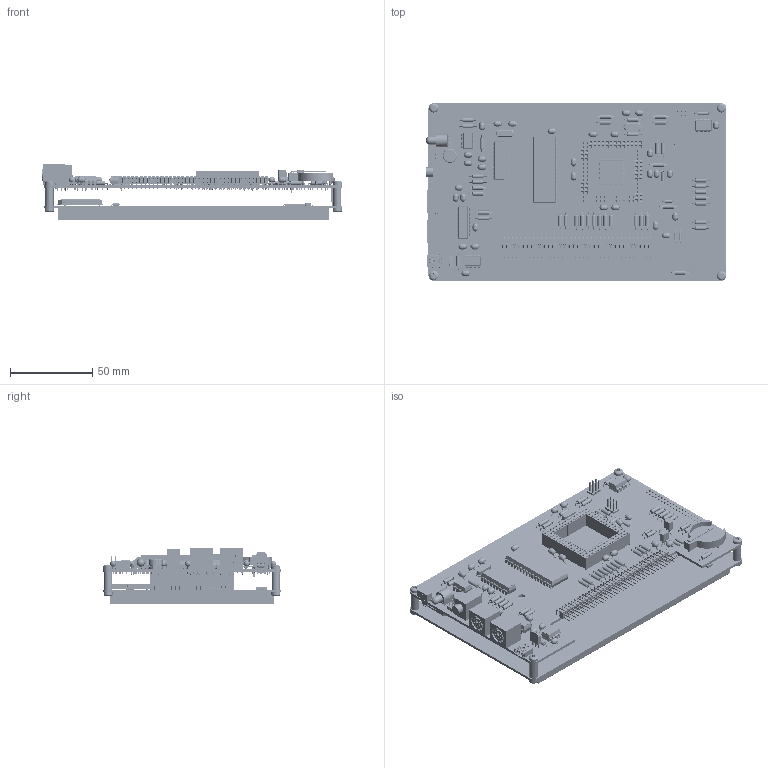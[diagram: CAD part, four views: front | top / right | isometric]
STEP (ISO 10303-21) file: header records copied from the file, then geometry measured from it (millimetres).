
FILE_DESCRIPTION(('Open CASCADE Model'),'2;1');
FILE_NAME('Open CASCADE Shape Model','2021-05-20T10:48:35',('Author'),( 'Open CASCADE'),'Open CASCADE STEP processor 6.8','Open CASCADE 6.8' ,'Unknown');
FILE_SCHEMA(('AUTOMOTIVE_DESIGN { 1 0 10303 214 1 1 1 1 }'));
Length unit declared in the file: millimetre
Products named in the file (148): PCB; Board; R41; RES1016-660X250; R40; R39; R38; R36; LED1; LED_DIALIGHT_550-3509F; U1; DIP8-300; R1; C1; CAPRR508-350X500X500; C21; D1; DO-35; Product; R16; J1; 70474310; Y3; XTAL_CITIZEN_HC-49-U-S; Y2; User_Library-DT-26-1; Y1; U9; U7; U3; User_Library-DIP-32P-M01; U6; DIP18-300; U5; TO-92AA-P254; U4; U2; QFP50P1600X1600X170-100N; SW1; 701982960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
Assembly tree (242 placements, depth 4):
  PCB
    Board
    R41
      RES1016-660X250
    R40
      RES1016-660X250
    R39
      RES1016-660X250
    R38
      RES1016-660X250
    R36
      RES1016-660X250
    LED1
      LED_DIALIGHT_550-3509F
    U1
      DIP8-300
    R1
      RES1016-660X250
    C1
      CAPRR508-350X500X500
    C21
      CAPRR508-350X500X500
    D1
      DO-35
        Product
    R16
      RES1016-660X250
    J1
      70474310
    Y3
      XTAL_CITIZEN_HC-49-U-S
    Y2
      User_Library-DT-26-1
    Y1
      XTAL_CITIZEN_HC-49-U-S
    U9
      DIP8-300
    U7
      DIP8-300
    U3
      User_Library-DIP-32P-M01
    U6
      DIP18-300
    U5
      TO-92AA-P254
    U4
      TO-92AA-P254
    U2
      QFP50P1600X1600X170-100N
    SW1
      701982960
        Extruded
      701983096
        Extruded
    SPK1
      User_Library-Header_Male_2Pin
        User_Library-Header_Male_2Pin_PinArray
        User_Library-Header_Male_2Pin_BodyArray
    R35
      RES1016-660X250
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Bounding box: 182.64 x 108 x 34.01 mm (x, y, z)
Volume: 197862.1 mm3; surface area: 133436.3 mm2
Topology: 925 solids, 925 shells, 22392 faces, 53510 edges, 33698 vertices
Faces by surface type: plane 12425, cylinder 4876, bspline 4344, torus 414, cone 160, sphere 157, revolution 16
Full cylindrical faces by diameter (mm): 0.4 x2, 0.6 x5, 0.7 x241, 0.8 x4, 0.85 x104, 0.9 x140, 1 x6, 1.1 x6, 1.5 x4, 3.2 x4, 4.2 x1, 5 x4, 5.4 x1, 5.6 x1, 6 x1
Entity records: 420853 total; most frequent: CARTESIAN_POINT 97506, ORIENTED_EDGE 62058, DIRECTION 58189, EDGE_CURVE 31029, LINE 24453, VECTOR 24453, VERTEX_POINT 19931, AXIS2_PLACEMENT_3D 16867
